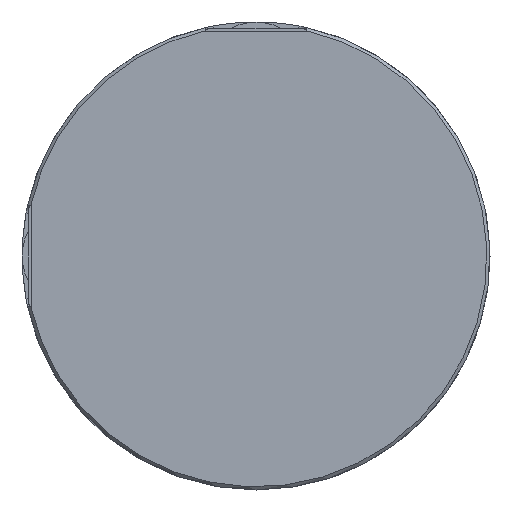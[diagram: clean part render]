
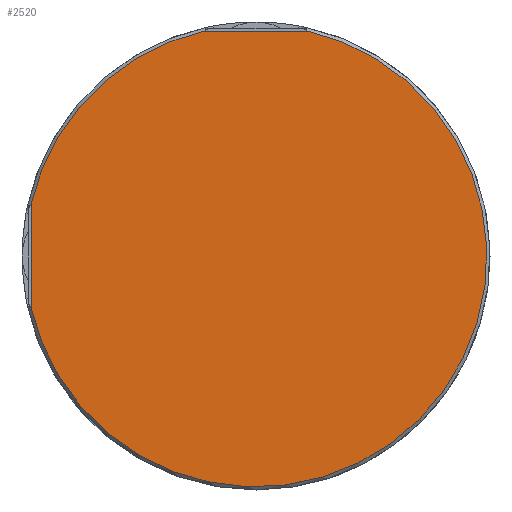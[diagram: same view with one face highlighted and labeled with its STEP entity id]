
A CAD part, front view. The second image highlights one B-rep face of the part: STEP entity #2520.
In plain terms, the highlighted planar face has unit normal (0, -1, 0).
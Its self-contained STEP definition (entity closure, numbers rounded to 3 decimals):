
#36 = EDGE_CURVE ( 'NONE', #1494, #2718, #2621, .T. ) ;
#51 = CARTESIAN_POINT ( 'NONE',  ( -16.2, 0., 72.205 ) ) ;
#166 = AXIS2_PLACEMENT_3D ( 'NONE', #3131, #2751, #3385 ) ;
#220 = PLANE ( 'NONE',  #166 ) ;
#264 = LINE ( 'NONE', #3112, #2503 ) ;
#372 = ORIENTED_EDGE ( 'NONE', *, *, #2912, .F. ) ;
#408 = VECTOR ( 'NONE', #1374, 1000. ) ;
#540 = VECTOR ( 'NONE', #2881, 1000. ) ;
#634 = DIRECTION ( 'NONE',  ( 0.707, 0., -0.707 ) ) ;
#752 = DIRECTION ( 'NONE',  ( 0.707, 0., -0.707 ) ) ;
#789 = DIRECTION ( 'NONE',  ( 1., 0., 0. ) ) ;
#801 = CARTESIAN_POINT ( 'NONE',  ( -72., 0., 16.2 ) ) ;
#856 = CARTESIAN_POINT ( 'NONE',  ( -72.205, 0., 16.2 ) ) ;
#900 = CARTESIAN_POINT ( 'NONE',  ( -16.2, 0., 72. ) ) ;
#1006 = VERTEX_POINT ( 'NONE', #2538 ) ;
#1065 = DIRECTION ( 'NONE',  ( 0., -1., 0. ) ) ;
#1139 = ORIENTED_EDGE ( 'NONE', *, *, #1735, .F. ) ;
#1176 = ORIENTED_EDGE ( 'NONE', *, *, #1257, .T. ) ;
#1257 = EDGE_CURVE ( 'NONE', #2718, #2760, #2350, .T. ) ;
#1374 = DIRECTION ( 'NONE',  ( 1., 0., 0. ) ) ;
#1403 = DIRECTION ( 'NONE',  ( 0., -1., 0. ) ) ;
#1459 = EDGE_CURVE ( 'NONE', #4056, #3130, #3077, .T. ) ;
#1492 = CARTESIAN_POINT ( 'NONE',  ( -16.2, 0., 72.5 ) ) ;
#1494 = VERTEX_POINT ( 'NONE', #3519 ) ;
#1504 = FACE_OUTER_BOUND ( 'NONE', #3906, .T. ) ;
#1542 = AXIS2_PLACEMENT_3D ( 'NONE', #3606, #1065, #1659 ) ;
#1566 = AXIS2_PLACEMENT_3D ( 'NONE', #3812, #1576, #634 ) ;
#1576 = DIRECTION ( 'NONE',  ( 0., -1., 0. ) ) ;
#1579 = VERTEX_POINT ( 'NONE', #1591 ) ;
#1591 = CARTESIAN_POINT ( 'NONE',  ( -72., 0., -16.2 ) ) ;
#1659 = DIRECTION ( 'NONE',  ( 0., 0., 1. ) ) ;
#1719 = CARTESIAN_POINT ( 'NONE',  ( -72.5, 0., -16.2 ) ) ;
#1735 = EDGE_CURVE ( 'NONE', #1494, #1579, #3320, .T. ) ;
#1743 = LINE ( 'NONE', #2705, #1944 ) ;
#1850 = VERTEX_POINT ( 'NONE', #856 ) ;
#1944 = VECTOR ( 'NONE', #3020, 1000. ) ;
#2016 = LINE ( 'NONE', #4004, #2721 ) ;
#2058 = ORIENTED_EDGE ( 'NONE', *, *, #3225, .F. ) ;
#2067 = ORIENTED_EDGE ( 'NONE', *, *, #2570, .F. ) ;
#2244 = CARTESIAN_POINT ( 'NONE',  ( 16.2, 0., 72.205 ) ) ;
#2305 = ORIENTED_EDGE ( 'NONE', *, *, #1459, .F. ) ;
#2350 = CIRCLE ( 'NONE', #3634, 74. ) ;
#2387 = EDGE_CURVE ( 'NONE', #3130, #1006, #2016, .T. ) ;
#2403 = CIRCLE ( 'NONE', #1542, 74. ) ;
#2503 = VECTOR ( 'NONE', #4048, 1000. ) ;
#2520 = ADVANCED_FACE ( 'NONE', ( #1504 ), #220, .F. ) ;
#2538 = CARTESIAN_POINT ( 'NONE',  ( 16.2, 0., 72. ) ) ;
#2570 = EDGE_CURVE ( 'NONE', #3673, #1850, #264, .T. ) ;
#2621 = CIRCLE ( 'NONE', #1566, 74. ) ;
#2705 = CARTESIAN_POINT ( 'NONE',  ( 16.2, 0., 72.5 ) ) ;
#2718 = VERTEX_POINT ( 'NONE', #3876 ) ;
#2721 = VECTOR ( 'NONE', #789, 1000. ) ;
#2751 = DIRECTION ( 'NONE',  ( 0., 1., 0. ) ) ;
#2760 = VERTEX_POINT ( 'NONE', #2244 ) ;
#2761 = DIRECTION ( 'NONE',  ( 0., 0., -1. ) ) ;
#2881 = DIRECTION ( 'NONE',  ( 0., 0., 1. ) ) ;
#2912 = EDGE_CURVE ( 'NONE', #1006, #2760, #1743, .T. ) ;
#3020 = DIRECTION ( 'NONE',  ( 0., 0., 1. ) ) ;
#3056 = ORIENTED_EDGE ( 'NONE', *, *, #2387, .F. ) ;
#3077 = LINE ( 'NONE', #1492, #3922 ) ;
#3108 = ORIENTED_EDGE ( 'NONE', *, *, #36, .T. ) ;
#3112 = CARTESIAN_POINT ( 'NONE',  ( -72.5, 0., 16.2 ) ) ;
#3130 = VERTEX_POINT ( 'NONE', #900 ) ;
#3131 = CARTESIAN_POINT ( 'NONE',  ( -72., 0., -18.002 ) ) ;
#3225 = EDGE_CURVE ( 'NONE', #1579, #3673, #3656, .T. ) ;
#3320 = LINE ( 'NONE', #1719, #408 ) ;
#3385 = DIRECTION ( 'NONE',  ( 1., 0., 0. ) ) ;
#3519 = CARTESIAN_POINT ( 'NONE',  ( -72.205, 0., -16.2 ) ) ;
#3555 = EDGE_CURVE ( 'NONE', #4056, #1850, #2403, .T. ) ;
#3603 = CARTESIAN_POINT ( 'NONE',  ( 0., 0., 0. ) ) ;
#3606 = CARTESIAN_POINT ( 'NONE',  ( 0., 0., 0. ) ) ;
#3634 = AXIS2_PLACEMENT_3D ( 'NONE', #3603, #1403, #752 ) ;
#3656 = LINE ( 'NONE', #3933, #540 ) ;
#3673 = VERTEX_POINT ( 'NONE', #801 ) ;
#3693 = ORIENTED_EDGE ( 'NONE', *, *, #3555, .T. ) ;
#3812 = CARTESIAN_POINT ( 'NONE',  ( 0., 0., 0. ) ) ;
#3876 = CARTESIAN_POINT ( 'NONE',  ( 52.326, 0., -52.326 ) ) ;
#3906 = EDGE_LOOP ( 'NONE', ( #3693, #2067, #2058, #1139, #3108, #1176, #372, #3056, #2305 ) ) ;
#3922 = VECTOR ( 'NONE', #2761, 1000. ) ;
#3933 = CARTESIAN_POINT ( 'NONE',  ( -72., 0., -18.002 ) ) ;
#4004 = CARTESIAN_POINT ( 'NONE',  ( 16.2, 0., 72. ) ) ;
#4048 = DIRECTION ( 'NONE',  ( -1., 0., 0. ) ) ;
#4056 = VERTEX_POINT ( 'NONE', #51 ) ;
